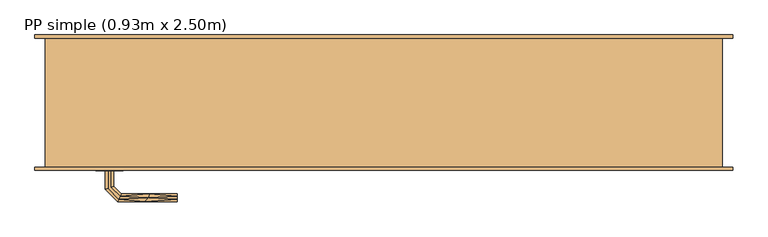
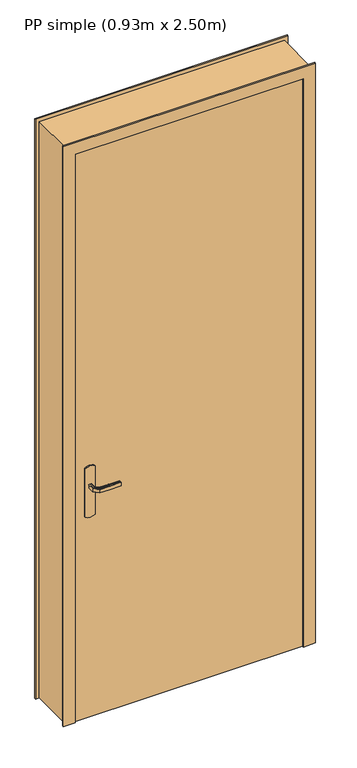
"""IFC4 building model written with IfcOpenShell, lengths in millimetres: door geometry, PP simple (0.93m x 2.50m)."""

from ifc_helpers import new_model, si_unit, frame, origin, origin_with_axes, place, context, project, spatial, polyline, outline, extrude, faceted_brep, source, transform, mapped, element, save


def pp_simple_0_93m_x_2_50m_07354705(model_context):
    return source(origin(), model_context, "Body", "SolidModel", [
        faceted_brep([(0.0, 190.0, 0.0), (-15.0, 190.0, 0.0), (-15.0, 195.0, 0.0), (50.0, 195.0, 0.0), (50.0, 40.0, 0.0), (35.0, 40.0, 0.0), (35.0, -5.0, 0.0), (-15.0, -5.0, 0.0), (-15.0, 0.0, 0.0), (0.0, 0.0, 0.0), (0.0, 0.0, 2485.0), (0.0, 190.0, 2485.0), (1000.0, 190.0, 2485.0), (1000.0, 190.0, 0.0), (1015.0, 190.0, 0.0), (1015.0, 190.0, 2500.0), (-15.0, 190.0, 2500.0), (50.0, 195.0, 2435.0), (50.0, 40.0, 2435.0), (950.0, 40.0, 2435.0), (950.0, 40.0, 0.0), (965.0, 40.0, 0.0), (965.0, 40.0, 2450.0), (35.0, 40.0, 2450.0), (1000.0, 0.0, 2485.0), (1000.0, 0.0, 0.0), (1015.0, 0.0, 0.0), (1015.0, -5.0, 0.0), (965.0, -5.0, 0.0), (950.0, 195.0, 0.0), (1015.0, 195.0, 0.0), (950.0, 195.0, 2435.0), (35.0, -5.0, 2450.0), (965.0, -5.0, 2450.0), (1015.0, -5.0, 2500.0), (-15.0, -5.0, 2500.0), (-15.0, 0.0, 2500.0), (1015.0, 0.0, 2500.0), (-15.0, 195.0, 2500.0), (1015.0, 195.0, 2500.0)], [[[0, 1, 2, 3, 4, 5, 6, 7, 8, 9]], [[0, 9, 10, 11]], [[1, 0, 11, 12, 13, 14, 15, 16]], [[3, 17, 18, 4]], [[5, 4, 18, 19, 20, 21, 22, 23]], [[12, 24, 25, 13]], [[13, 25, 26, 27, 28, 21, 20, 29, 30, 14]], [[19, 31, 29, 20]], [[11, 10, 24, 12]], [[18, 17, 31, 19]], [[5, 23, 32, 6]], [[7, 6, 32, 33, 28, 27, 34, 35]], [[8, 7, 35, 36]], [[9, 8, 36, 37, 26, 25, 24, 10]], [[2, 1, 16, 38]], [[3, 2, 38, 39, 30, 29, 31, 17]], [[33, 22, 21, 28]], [[37, 34, 27, 26]], [[39, 15, 14, 30]], [[32, 23, 22, 33]], [[36, 35, 34, 37]], [[38, 16, 15, 39]]]),
        extrude(outline(polyline([(866.0039831, 105.3527618), (870.0, 115.0), (1080.0, 115.0), (1083.9960169, 105.3527618), (1085.3589838, 95.0), (1083.9960169, 84.6472382), (1080.0, 75.0), (870.0, 75.0), (866.0039831, 84.6472382), (864.6410162, 95.0), (866.0039831, 105.3527618)])), frame((0.0, -5.0, 0.0), z_axis=(0.0, 1.0, 0.0), x_axis=(0.0, 0.0, 1.0)), (0.0, 0.0, 1.0), 5.0),
        extrude(outline(polyline([(35.0, 40.0), (965.0, 40.0), (965.0, 0.0), (35.0, 0.0), (35.0, 40.0)])), origin_with_axes(), (0.0, 0.0, 1.0), 2450.0),
        faceted_brep([(92.9747013, 45.0, 1007.7804408), (89.0, 45.0, 1007.0), (89.0, 45.0, 993.0), (92.9747013, 45.0, 992.2195592), (97.0252987, 45.0, 992.2195592), (101.0, 45.0, 993.0), (101.0, 45.0, 1007.0), (97.0252987, 45.0, 1007.7804408), (101.0, 67.4852045, 993.0), (101.0, 67.4852045, 1007.0), (97.0252987, 69.1315797, 1007.7804408), (110.8389062, 82.9451872, 1007.7804408), (109.1610938, 86.9957845, 1007.7804408), (92.9747013, 70.8093921, 1007.7804408), (89.0, 72.4557673, 1007.0), (89.0, 72.4557673, 993.0), (92.9747013, 70.8093921, 992.2195592), (109.1610938, 86.9957845, 992.2195592), (110.8389062, 82.9451872, 992.2195592), (97.0252987, 69.1315797, 992.2195592), (112.4852814, 78.9704859, 993.0), (112.4852814, 78.9704859, 1007.0), (107.5147186, 90.9704859, 1007.0), (107.5147186, 90.9704859, 993.0), (195.0457837, 78.9704859, 993.0), (195.0457837, 82.9451872, 992.2195592), (195.0457837, 86.9957845, 992.2195592), (195.0457837, 90.9704859, 993.0), (195.0457837, 90.9704859, 1007.0), (195.0457837, 86.9957845, 1007.7804408), (195.0457837, 82.9451872, 1007.7804408), (195.0457837, 78.9704859, 1007.0), (153.7655206, 78.9704859, 993.0), (153.7655325, 78.9704859, 1007.0), (152.9423449, 84.9704859, 1007.8786868), (147.4452058, 90.9704859, 1007.0), (147.4452043, 90.9704859, 993.0), (152.9423451, 84.9704858, 992.1213132)], [[[0, 1, 2, 3, 4, 5, 6, 7]], [[6, 5, 8, 9]], [[9, 10, 7, 6]], [[10, 11, 12, 13, 0, 7]], [[13, 14, 1, 0]], [[2, 1, 14, 15]], [[15, 16, 3, 2]], [[16, 17, 18, 19, 4, 3]], [[19, 8, 5, 4]], [[9, 8, 20, 21]], [[21, 11, 10, 9]], [[12, 22, 14, 13]], [[15, 14, 22, 23]], [[23, 17, 16, 15]], [[18, 20, 8, 19]], [[24, 25, 26, 27, 28, 29, 30, 31]], [[21, 20, 32, 24, 31, 33]], [[33, 30, 34]], [[35, 34, 29]], [[21, 33, 11]], [[33, 31, 30]], [[28, 35, 29]], [[22, 12, 35]], [[35, 12, 34]], [[12, 11, 34]], [[11, 33, 34]], [[29, 34, 30]], [[22, 35, 28, 27, 36, 23]], [[36, 26, 37]], [[27, 26, 36]], [[17, 23, 36]], [[37, 32, 18]], [[20, 18, 32]], [[32, 25, 24]], [[26, 25, 37]], [[25, 32, 37]], [[17, 36, 37]], [[17, 37, 18]]]),
        extrude(outline(polyline([(866.0039831, 105.3527618), (870.0, 115.0), (1080.0, 115.0), (1083.9960169, 105.3527618), (1085.3589838, 95.0), (1083.9960169, 84.6472382), (1080.0, 75.0), (870.0, 75.0), (866.0039831, 84.6472382), (864.6410162, 95.0), (866.0039831, 105.3527618)])), frame((0.0, 40.0, 0.0), z_axis=(0.0, 1.0, 0.0), x_axis=(0.0, 0.0, 1.0)), (0.0, 0.0, 1.0), 5.0),
        faceted_brep([(92.9747013, -5.0, 1007.7804408), (97.0252987, -5.0, 1007.7804408), (101.0, -5.0, 1007.0), (101.0, -5.0, 993.0), (97.0252987, -5.0, 992.2195592), (92.9747013, -5.0, 992.2195592), (89.0, -5.0, 993.0), (89.0, -5.0, 1007.0), (89.0, -32.6509507, 1007.0), (92.9747013, -31.0045755, 1007.7804408), (109.0235852, -47.0534593, 1007.7804408), (110.7013975, -43.002862, 1007.7804408), (97.0252987, -29.3267632, 1007.7804408), (101.0, -27.680388, 1007.0), (101.0, -27.680388, 993.0), (97.0252987, -29.3267632, 992.2195592), (110.7013975, -43.002862, 992.2195592), (109.0235852, -47.0534593, 992.2195592), (92.9747013, -31.0045755, 992.2195592), (89.0, -32.6509507, 993.0), (107.37721, -51.0281607, 1007.0), (112.3477727, -39.0281607, 1007.0), (112.3477727, -39.0281607, 993.0), (107.37721, -51.0281607, 993.0), (195.0186406, -51.0281607, 993.0), (195.0186406, -47.0534593, 992.2195592), (195.0186406, -43.002862, 992.2195592), (195.0186406, -39.0281607, 993.0), (195.0186406, -39.0281607, 1007.0), (195.0186406, -43.002862, 1007.7804408), (195.0186406, -47.0534593, 1007.7804408), (195.0186406, -51.0281607, 1007.0), (147.3076972, -51.0281607, 1007.0), (152.8600191, -45.0281607, 1007.8786868), (153.6832067, -39.0281607, 1007.0), (153.6832067, -39.0281607, 993.0), (152.8600189, -45.0281608, 992.1213132), (147.3077002, -51.0281607, 993.0)], [[[0, 1, 2, 3, 4, 5, 6, 7]], [[8, 9, 0, 7]], [[9, 10, 11, 12, 1, 0]], [[12, 13, 2, 1]], [[3, 2, 13, 14]], [[14, 15, 4, 3]], [[15, 16, 17, 18, 5, 4]], [[18, 19, 6, 5]], [[7, 6, 19, 8]], [[20, 10, 9, 8]], [[11, 21, 13, 12]], [[14, 13, 21, 22]], [[22, 16, 15, 14]], [[17, 23, 19, 18]], [[8, 19, 23, 20]], [[24, 25, 26, 27, 28, 29, 30, 31]], [[32, 30, 33]], [[31, 30, 32]], [[10, 20, 32]], [[33, 34, 11]], [[21, 11, 34]], [[34, 29, 28]], [[30, 29, 33]], [[29, 34, 33]], [[10, 32, 33]], [[10, 33, 11]], [[22, 21, 34, 28, 27, 35]], [[35, 26, 36]], [[37, 36, 25]], [[22, 35, 16]], [[35, 27, 26]], [[24, 37, 25]], [[23, 17, 37]], [[37, 17, 36]], [[17, 16, 36]], [[16, 35, 36]], [[25, 36, 26]], [[20, 23, 37, 24, 31, 32]]]),
    ])


if __name__ == "__main__":
    model = new_model("IFC4")
    model_context = context("Model", 3, world=origin())
    ifc_project = project(units=[si_unit("LENGTHUNIT", "METRE", prefix="MILLI")], contexts=[model_context])
    site = spatial("IfcSite", under=ifc_project)
    building = spatial("IfcBuilding", under=site)
    placement = place(None, origin())
    pp_simple_0_93m_x_2_50m_shape = pp_simple_0_93m_x_2_50m_07354705(model_context)
    element("IfcDoor", 1, ObjectType="PP simple (0.93m x 2.50m)", at=placement, inside=building, context=model_context, shape_type="MappedRepresentation", body=[
        mapped(pp_simple_0_93m_x_2_50m_shape, transform((0.0, 0.0, 0.0), x_axis=(1.0, 0.0, 0.0), y_axis=(0.0, 1.0, 0.0), z_axis=(0.0, 0.0, 1.0))),
    ])
    save(model, "model.ifc")
